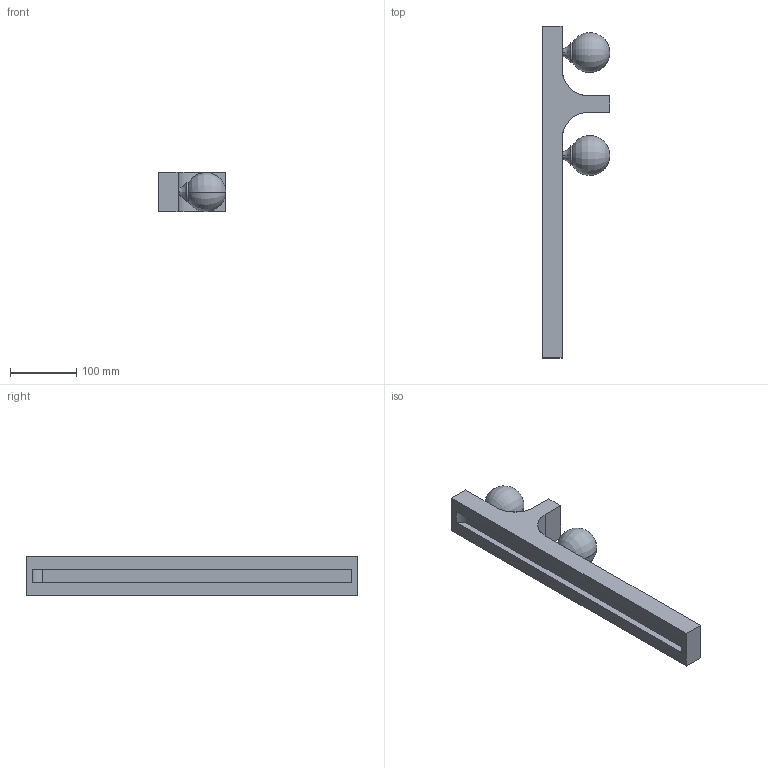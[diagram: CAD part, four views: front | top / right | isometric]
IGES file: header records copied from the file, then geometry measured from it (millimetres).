
Start section: SolidWorks IGES file using analytic representation for surfaces
Global section: file name: F:\燠隴矨\3D\2025-5\Asymmetrical Travertine Wall Sconce.IGS,15; native system: HSolidWorks 2022; preprocessor: SolidWorks 2022; author: MyPC; date: 250512.081725; units: millimetre
Bounding box: 102 x 500 x 60 mm (x, y, z)
Surface area: 165504.9 mm2 (no closed solid volume)
Topology: 0 solids, 0 shells, 439 faces, 4352 edges, 4350 vertices
Faces by surface type: bspline 340, revolution 99
